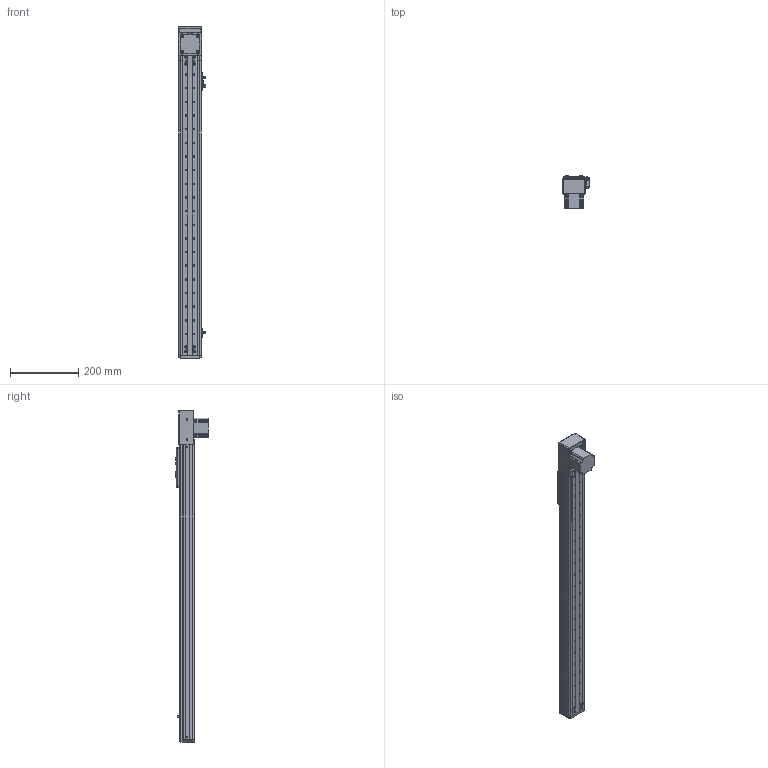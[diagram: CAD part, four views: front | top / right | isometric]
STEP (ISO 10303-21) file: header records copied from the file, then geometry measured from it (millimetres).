
FILE_DESCRIPTION (( 'STEP AP203' ), '1' );
FILE_NAME ('RY60F-T-350-DK.SLDASM_700.step', '2021-03-02T00:56:01', ( '盈信电脑' ), ( '东莞市道滘镇水果街19号' ), 'SwSTEP 2.0', 'SolidWorks 2012', '' );
FILE_SCHEMA (( 'CONFIG_CONTROL_DESIGN' ));
Length unit declared in the file: millimetre
Products named in the file (19): RY60F-T-350-DK.SLDASM_700; RY60F-T-狟殏欶; 57祭輛萇儂; RY60F-肮祭湍揤輸; RY60F-肮祭湍揤輸2; RY60F-T-57萇儂奻殏假蚾啣; 滅袉蝶18-24; RY60F-T-下折同步带拉紧板; 覜茼ん672; RY60F-350肮祭湍俋褲-DK_700; RY60F-350-肮祭湍滅鳥詩え-DK_700; RY50F-350-MR15W絳寢-DK_700; RY60F-T-下折57电机端同步轮座; RY50-60詩湍揤啣; RY60F-嫖萇羲壽結え; RY60F-祥凄詩滅鳥裔; RY60F-肮祭湍臏賑輸; RY60F-滅鳥詩え盓殤; RY60F-浮动端同步轮支撑座
Assembly tree (23 placements, depth 2):
  RY60F-T-350-DK.SLDASM_700
    RY60F-肮祭湍臏賑輸
    RY60F-浮动端同步轮支撑座
    RY60F-滅鳥詩え盓殤
    RY60F-嫖萇羲壽結え
    RY50-60詩湍揤啣  x2
    RY60F-祥凄詩滅鳥裔
    RY60F-T-下折57电机端同步轮座
    RY60F-350肮祭湍俋褲-DK_700  x2
    覜茼ん672  x3
    RY60F-350-肮祭湍滅鳥詩え-DK_700
    RY50F-350-MR15W絳寢-DK_700
    滅袉蝶18-24  x2
    RY60F-T-57萇儂奻殏假蚾啣
    RY60F-T-下折同步带拉紧板
    RY60F-肮祭湍揤輸
    RY60F-肮祭湍揤輸2
    57祭輛萇儂
    RY60F-T-狟殏欶
Bounding box: 80.76 x 96.5 x 973 mm (x, y, z)
Volume: 957000.9 mm3; surface area: 621551 mm2
Topology: 23 solids, 23 shells, 1182 faces, 3242 edges, 2084 vertices
Faces by surface type: cylinder 555, plane 546, cone 71, bspline 10
Entity records: 36425 total; most frequent: CARTESIAN_POINT 6601, DIRECTION 5888, ORIENTED_EDGE 5660, EDGE_CURVE 2830, AXIS2_PLACEMENT_3D 2079, VERTEX_POINT 1852, VECTOR 1730, LINE 1730
